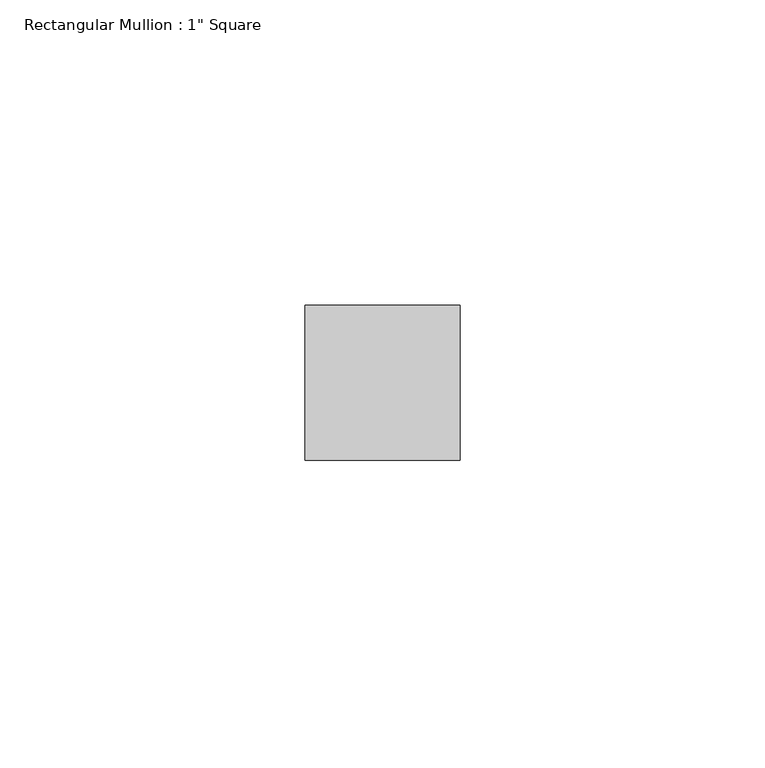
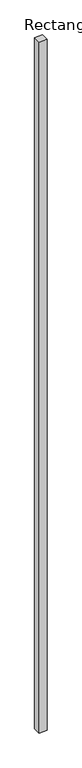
"""IFC4 building model written with IfcOpenShell, lengths in millimetres: member geometry."""

from ifc_helpers import new_model, si_unit, frame, origin, place, context, project, spatial, polyline, outline, extrude, source, transform, mapped, element, save


def member_12f75a1b(model_context):
    return source(origin(), model_context, "Body", "SweptSolid", [
        extrude(outline(polyline([(12.7, 12.7), (12.7, -12.7), (-12.7, -12.7), (-12.7, 12.7), (12.7, 12.7)])), frame((0.0, 0.0, -2360.5229586), z_axis=(0.0, 0.0, 1.0), x_axis=(1.0, 0.0, 0.0)), (0.0, 0.0, 1.0), 2360.5229586),
    ])


if __name__ == "__main__":
    model = new_model("IFC4")
    model_context = context("Model", 3, world=origin())
    ifc_project = project(units=[si_unit("LENGTHUNIT", "METRE", prefix="MILLI")], contexts=[model_context])
    site = spatial("IfcSite", under=ifc_project)
    building = spatial("IfcBuilding", under=site)
    placement = place(None, origin())
    member_shape = member_12f75a1b(model_context)
    element("IfcMember", 1, ObjectType="Rectangular Mullion : 1\" Square", at=placement, inside=building, context=model_context, shape_type="MappedRepresentation", body=[
        mapped(member_shape, transform((0.0, 0.0, 0.0), x_axis=(1.0, 0.0, 0.0), y_axis=(0.0, 1.0, 0.0), z_axis=(0.0, 0.0, 1.0))),
    ])
    save(model, "model.ifc")
